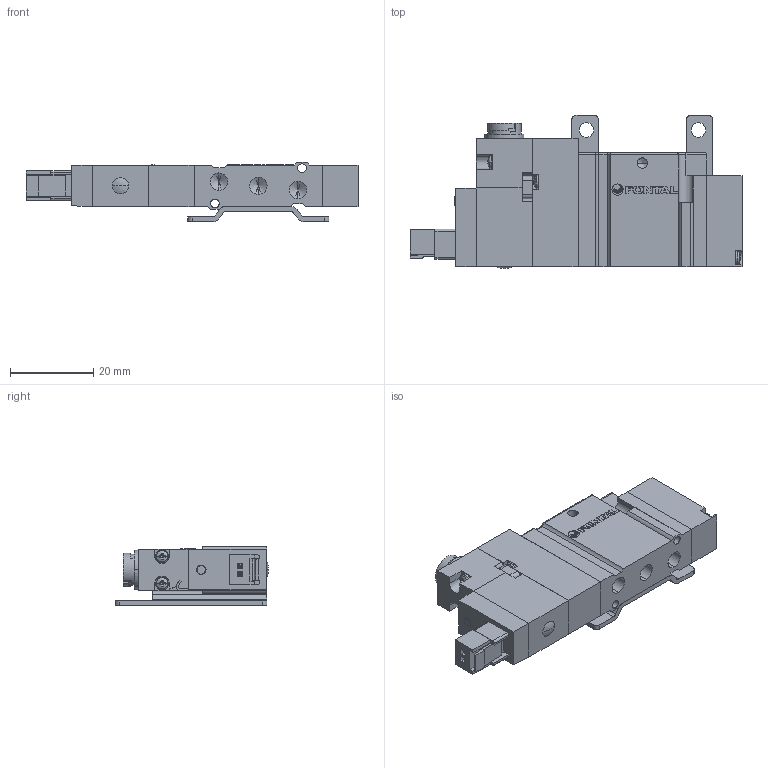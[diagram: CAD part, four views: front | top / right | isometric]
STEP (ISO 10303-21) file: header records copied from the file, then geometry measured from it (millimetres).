
FILE_DESCRIPTION (( 'STEP AP203' ), '1' );
FILE_NAME ('A05RS25#-BS-#-#-E.STEP', '2016-02-04T02:10:28', ( 'Sam Lin' ), ( '' ), 'SwSTEP 2.0', 'SolidWorks 2013', '' );
FILE_SCHEMA (( 'CONFIG_CONTROL_DESIGN' ));
Length unit declared in the file: metre
Products named in the file (15): A05RS25-6; A05RS25-7; A05RS25-#-#-#; A05RS25-8; A05RS25-1; A05RS25-9; ISO 7045 - M1.6 x 10; A05RS25-10; A05RS25-2; A05RS25-12; A05RS25-3; mark-ADEX-A05RS; A05RS25-4; A05RS25#-BS-#-#-E; A05RS25-5
Assembly tree (21 placements, depth 2):
  A05RS25#-BS-#-#-E
    A05RS25-#-#-#
    A05RS25-1
    ISO 7045 - M1.6 x 10  x6
    A05RS25-2
    A05RS25-3
    A05RS25-4
    A05RS25-5
    A05RS25-6  x2
    A05RS25-7
    A05RS25-8  x2
    A05RS25-9
    A05RS25-10
    A05RS25-12
    mark-ADEX-A05RS
Bounding box: 80 x 36.9 x 14.4 mm (x, y, z)
Volume: 18474.6 mm3; surface area: 13957.3 mm2
Topology: 28 solids, 28 shells, 744 faces, 1880 edges, 1186 vertices
Faces by surface type: plane 452, cylinder 164, cone 72, bspline 56
Entity records: 17712 total; most frequent: CARTESIAN_POINT 3591, ORIENTED_EDGE 2572, DIRECTION 2524, EDGE_CURVE 1286, LINE 890, VECTOR 890, VERTEX_POINT 840, AXIS2_PLACEMENT_3D 817
